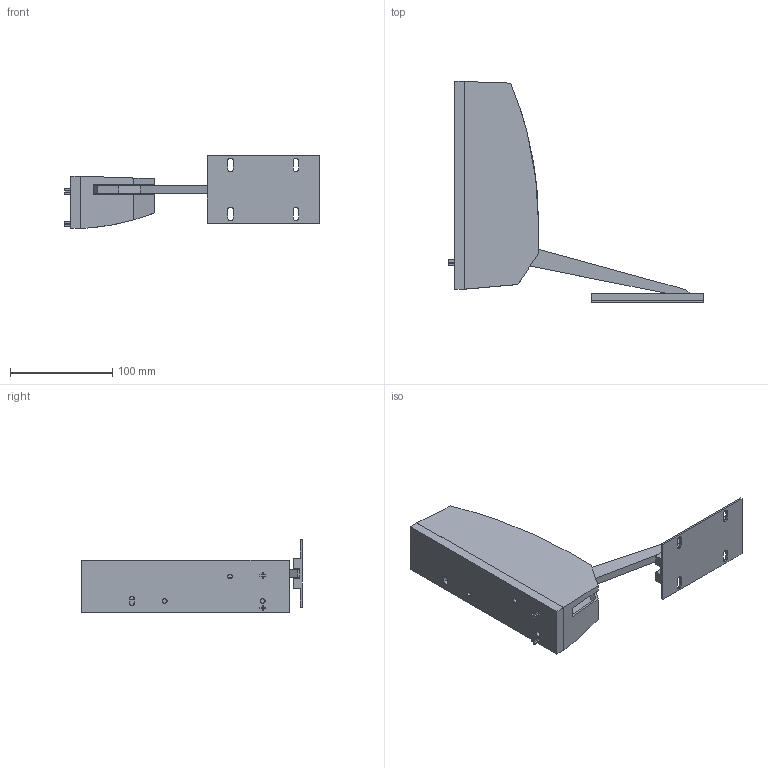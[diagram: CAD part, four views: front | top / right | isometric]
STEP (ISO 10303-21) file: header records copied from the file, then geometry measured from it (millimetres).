
FILE_DESCRIPTION( ( '' ), '1' );
FILE_NAME( 'C:/Users/dhek/Desktop/New folder/WL_L/9238120.stp', '2017-07-17T06:57:16', ( '' ), ( '' ), ' ', ' ', ' ' );
FILE_SCHEMA( ( 'automotive_design' ) );
Length unit declared in the file: millimetre
Products named in the file (2): 1; 2
Bounding box: 249.5 x 216.39 x 71 mm (x, y, z)
Volume: 290388 mm3; surface area: 170081.5 mm2
Topology: 2 solids, 2 shells, 213 faces, 596 edges, 388 vertices
Faces by surface type: plane 132, cylinder 54, cone 23, torus 4
Entity records: 13793 total; most frequent: CARTESIAN_POINT 1504, STYLED_ITEM 1195, PRESENTATION_STYLE_ASSIGNMENT 1195, COLOUR_RGB 1195, ORIENTED_EDGE 1184, DIRECTION 1148, EDGE_CURVE 592, CURVE_STYLE 592
